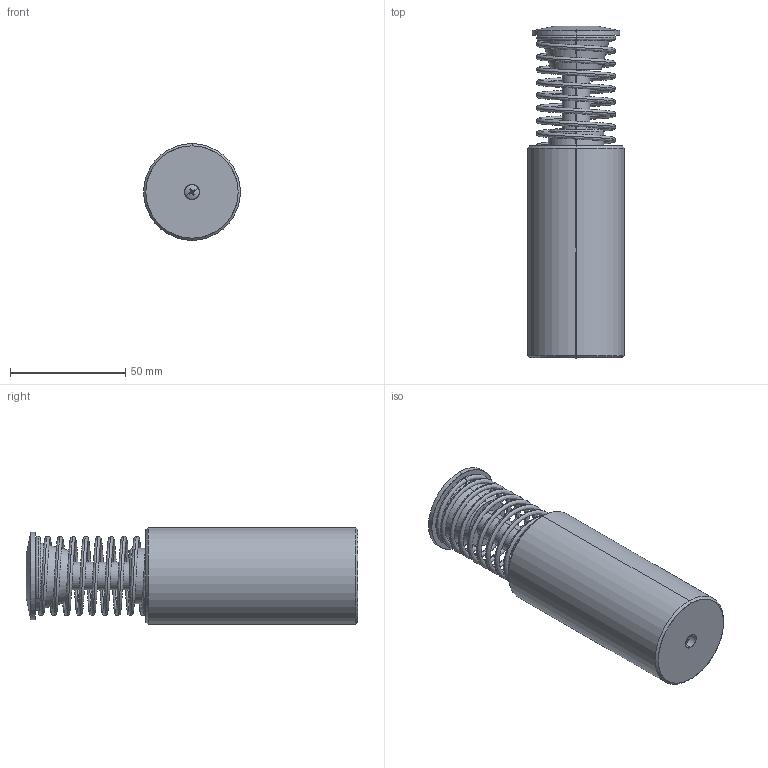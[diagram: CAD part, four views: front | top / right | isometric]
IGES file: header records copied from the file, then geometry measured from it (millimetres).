
Start section: SolidWorks IGES file using analytic representation for surfaces
Bounding box: 42 x 144 x 42 mm (x, y, z)
Surface area: 31121 mm2 (no closed solid volume)
Topology: 0 solids, 0 shells, 93 faces, 1425 edges, 1425 vertices
Faces by surface type: revolution 58, bspline 35
